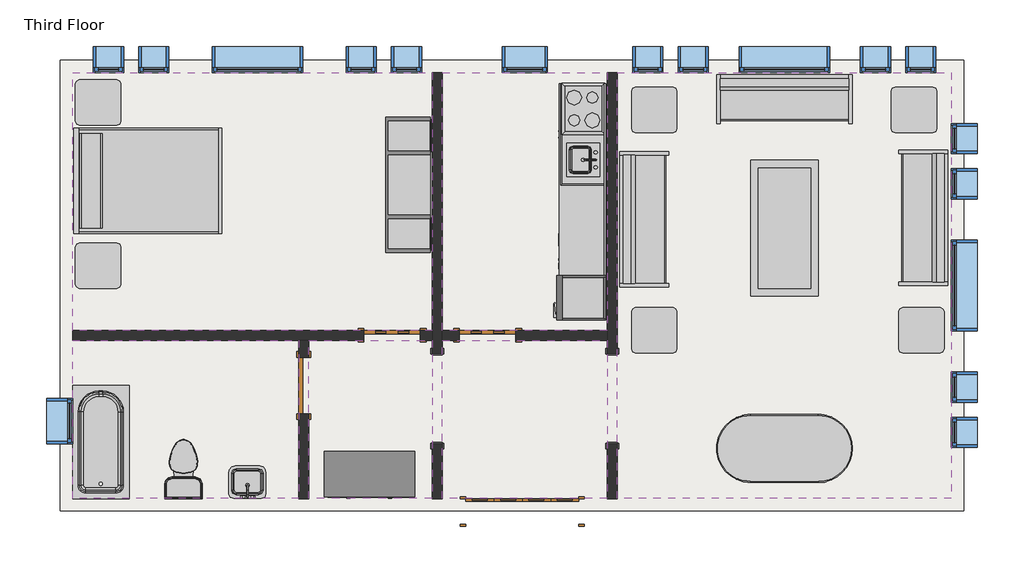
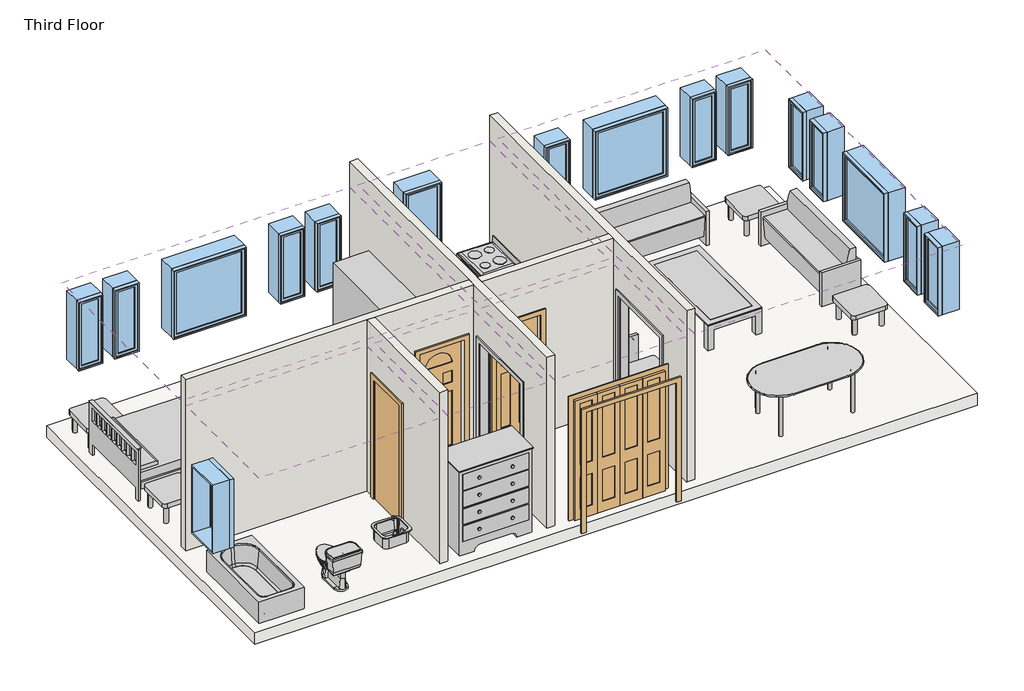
# One storey, incomplete: 17 windows, 15 furniture elements, 6 coverings, 6 proxies, 4 doors, 4 flow terminals, 4 walls, 1 slab.
"""IFC4 building model written with IfcOpenShell, lengths in millimetres."""

from ifc_helpers import new_model, si_unit, frame, origin, place, context, project, spatial, polyline, outline, extrude, faceted_brep, transform, mapped, element, save
from components import m_cook_top_4_unit2_0615_x_500mm_249f3515, m_dishwasher_610_x_610_x_875mm_54ecfc4c, m_kitchenette_medium_1372mm_e05c6bec, m_passage_opening_cased_1220_x_2134mm_87a8d9c2, m_refrigerator_600_x_660mm_a466bf94, m_bifold_4_panel_1525_x_2134mm_1ddae71f, m_single_decorative_2_0762_x_2134mm_0d0af7cb, m_single_decorative_2_0762_x_2134mm_2fe67c8e, m_single_flush_0762_x_2134mm_0d89e411, m_sink_kitchen_island_450_x_450mm_f969cf2d, m_sink_vanity_square_500_x_440mm_1e229b74, m_toilet_domestic_3d_m_toilet_domestic_3d_5cb52bd4, m_toilet_domestic_3d_m_toilet_domestic_3d_183bbd19, m_tub_rectangular_3d_m_tub_rectangular_3d_3a981ad5, m_bed_shaker_1422_x_1981mm_double_096e7f55, m_counter_top_w_sink_hole_600mm_depth_1fb56bb9, m_dresser_1220_x_1525_x_0610mm_18e1f140, m_entertainment_center_1830_x_1830_x_0610mm_f77a9b93, m_sofa_1830mm_58d08fc1, m_table_coffee_0915_x_1830_x_0457mm_134cd960, m_table_dining_oval_0915_x_1830mm_a7cfbe21, m_table_end_cb6ea12e, m_fixed_0406_x_1220mm_57fee329, m_fixed_0406_x_1220mm_85c28f40, m_fixed_0610_x_1220mm_2c28ef1d, m_fixed_1220_x_1220mm_e08ff7af

model = new_model("IFC4")

# Units and contexts
model_context = context("Model", 3, world=origin())
ifc_project = project(units=[si_unit("LENGTHUNIT", "METRE", prefix="MILLI")], contexts=[model_context])

# Site, building, storey
site = spatial("IfcSite", under=ifc_project)
building = spatial("IfcBuilding", under=site)
storey = spatial("IfcBuildingStorey", under=building, Name="Third Floor", Elevation=6096.0)

# Proxies
placement = place(None, origin())
m_cook_top_4_unit2_0615_x_500mm_shape = m_cook_top_4_unit2_0615_x_500mm_249f3515(model_context)
element("IfcBuildingElementProxy", 1, Name="M_Cook Top-4 Unit2 : 0615 x 500mm", ObjectType="M_Cook Top-4 Unit2 : 0615 x 500mm", at=placement, inside=storey, context=model_context, shape_type="MappedRepresentation", body=[
    mapped(m_cook_top_4_unit2_0615_x_500mm_shape, transform((-8054.9916203, 1914.054661, 6096.0), x_axis=(0.0, -1.0, 0.0), y_axis=(1.0, 0.0, 0.0), z_axis=(0.0, 0.0, 1.0))),
])
m_dishwasher_610_x_610_x_875mm_shape = m_dishwasher_610_x_610_x_875mm_54ecfc4c(model_context)
element("IfcBuildingElementProxy", 2, Name="M_Dishwasher : 610 x 610 x 875mm", ObjectType="M_Dishwasher : 610 x 610 x 875mm", at=placement, inside=storey, context=model_context, shape_type="MappedRepresentation", body=[
    mapped(m_dishwasher_610_x_610_x_875mm_shape, transform((-8321.6411851, 353.5721295, 6096.0), x_axis=(0.0, -1.0, 0.0), y_axis=(1.0, 0.0, 0.0), z_axis=(0.0, 0.0, 1.0))),
])
m_kitchenette_medium_1372mm_shape = m_kitchenette_medium_1372mm_e05c6bec(model_context)
element("IfcBuildingElementProxy", 3, Name="M_Kitchenette - Medium : 1372mm", ObjectType="M_Kitchenette - Medium : 1372mm", at=placement, inside=storey, context=model_context, shape_type="MappedRepresentation", body=[
    mapped(m_kitchenette_medium_1372mm_shape, transform((-7749.9916203, 1589.7923659, 6096.0), x_axis=(0.0, -1.0, 0.0), y_axis=(1.0, 0.0, 0.0), z_axis=(0.0, 0.0, 1.0))),
])
m_passage_opening_cased_1220_x_2134mm_shape = m_passage_opening_cased_1220_x_2134mm_87a8d9c2(model_context)
element("IfcBuildingElementProxy", 4, Name="M_Passage Opening-Cased : 1220 x 2134mm", ObjectType="M_Passage Opening-Cased : 1220 x 2134mm", at=placement, inside=storey, context=model_context, shape_type="MappedRepresentation", body=[
    mapped(m_passage_opening_cased_1220_x_2134mm_shape, transform((-7665.3416203, -1982.6925047, 6096.0), x_axis=(0.0, 1.0, 0.0), y_axis=(-1.0, 0.0, 0.0), z_axis=(0.0, 0.0, 1.0))),
])
element("IfcBuildingElementProxy", 5, Name="M_Passage Opening-Cased : 1220 x 2134mm", ObjectType="M_Passage Opening-Cased : 1220 x 2134mm", at=placement, inside=storey, context=model_context, shape_type="MappedRepresentation", body=[
    mapped(m_passage_opening_cased_1220_x_2134mm_shape, transform((-10019.0916203, -1999.0698181, 6096.0), x_axis=(0.0, -1.0, 0.0), y_axis=(1.0, 0.0, 0.0), z_axis=(0.0, 0.0, 1.0))),
])
m_refrigerator_600_x_660mm_shape = m_refrigerator_600_x_660mm_a466bf94(model_context)
element("IfcBuildingElementProxy", 6, Name="M_Refrigerator : 600 x 660mm", ObjectType="M_Refrigerator : 600 x 660mm", at=placement, inside=storey, context=model_context, shape_type="MappedRepresentation", body=[
    mapped(m_refrigerator_600_x_660mm_shape, transform((-8046.2067105, -687.7464817, 6096.0), x_axis=(0.0, -1.0, 0.0), y_axis=(1.0, 0.0, 0.0), z_axis=(0.0, 0.0, 1.0))),
])

# Coverings
element("IfcCovering", 7, ObjectType="Plain", at=placement, inside=storey, context=model_context, shape_type="SweptSolid", body=[
    extrude(outline(polyline([(-14935.3416203, 2406.1188386), (-10086.8416203, 2406.1188386), (-10086.8416203, -1070.3811614), (-14935.3416203, -1070.3811614), (-14935.3416203, 2406.1188386)])), frame((0.0, 0.0, 8686.0), z_axis=(0.0, 0.0, 1.0), x_axis=(1.0, 0.0, 0.0)), (0.0, 0.0, 1.0), 57.0),
])
element("IfcCovering", 8, ObjectType="Plain", at=placement, inside=storey, context=model_context, shape_type="SweptSolid", body=[
    extrude(outline(polyline([(-9951.3416203, -1070.3811614), (-9951.3416203, 2406.1188386), (-7733.0916203, 2406.1188386), (-7733.0916203, -1070.3811614), (-9951.3416203, -1070.3811614)])), frame((0.0, 0.0, 8686.0), z_axis=(0.0, 0.0, 1.0), x_axis=(1.0, 0.0, 0.0)), (0.0, 0.0, 1.0), 57.0),
])
element("IfcCovering", 9, ObjectType="Plain", at=placement, inside=storey, context=model_context, shape_type="SweptSolid", body=[
    extrude(outline(polyline([(-7597.5916203, -3339.8811614), (-7597.5916203, 2406.1188386), (-3093.3416203, 2406.1188386), (-3093.3416203, -3339.8811614), (-7597.5916203, -3339.8811614)])), frame((0.0, 0.0, 8686.0), z_axis=(0.0, 0.0, 1.0), x_axis=(1.0, 0.0, 0.0)), (0.0, 0.0, 1.0), 57.0),
])
element("IfcCovering", 10, ObjectType="Plain", at=placement, inside=storey, context=model_context, shape_type="SweptSolid", body=[
    extrude(outline(polyline([(-7733.0916203, -3339.8811614), (-9951.3416203, -3339.8811614), (-9951.3416203, -1205.8811614), (-7733.0916203, -1205.8811614), (-7733.0916203, -3339.8811614)])), frame((0.0, 0.0, 8686.0), z_axis=(0.0, 0.0, 1.0), x_axis=(1.0, 0.0, 0.0)), (0.0, 0.0, 1.0), 57.0),
])
element("IfcCovering", 11, ObjectType="Plain", at=placement, inside=storey, context=model_context, shape_type="SweptSolid", body=[
    extrude(outline(polyline([(-11887.3416203, -1205.8811614), (-11887.3416203, -3339.8811614), (-14935.3416203, -3339.8811614), (-14935.3416203, -1205.8811614), (-11887.3416203, -1205.8811614)])), frame((0.0, 0.0, 8686.0), z_axis=(0.0, 0.0, 1.0), x_axis=(1.0, 0.0, 0.0)), (0.0, 0.0, 1.0), 57.0),
])
element("IfcCovering", 12, ObjectType="Plain", at=placement, inside=storey, context=model_context, shape_type="SweptSolid", body=[
    extrude(outline(polyline([(-10086.8416203, -3339.8811614), (-11751.8416203, -3339.8811614), (-11751.8416203, -1205.8811614), (-10086.8416203, -1205.8811614), (-10086.8416203, -3339.8811614)])), frame((0.0, 0.0, 8686.0), z_axis=(0.0, 0.0, 1.0), x_axis=(1.0, 0.0, 0.0)), (0.0, 0.0, 1.0), 57.0),
])

# Doors
m_bifold_4_panel_1525_x_2134mm_shape = m_bifold_4_panel_1525_x_2134mm_1ddae71f(model_context)
element("IfcDoor", 13, ObjectType="M_Bifold-4 Panel : 1525 x 2134mm", at=placement, inside=storey, context=model_context, shape_type="MappedRepresentation", body=[
    mapped(m_bifold_4_panel_1525_x_2134mm_shape, transform((-8876.0916203, -3514.8811614, 6096.0), x_axis=(1.0, 0.0, 0.0), y_axis=(0.0, 1.0, 0.0), z_axis=(0.0, 0.0, 1.0))),
])
m_single_decorative_2_0762_x_2134mm_shape = m_single_decorative_2_0762_x_2134mm_0d0af7cb(model_context)
element("IfcDoor", 14, ObjectType="M_Single-Decorative 2 : 0762 x 2134mm", at=placement, inside=storey, context=model_context, shape_type="MappedRepresentation", body=[
    mapped(m_single_decorative_2_0762_x_2134mm_shape, transform((-9342.3416203, -1138.1311614, 6096.0), x_axis=(-1.0, 0.0, 0.0), y_axis=(0.0, -1.0, 0.0), z_axis=(0.0, 0.0, 1.0))),
])
m_single_decorative_2_0762_x_2134mm_2_shape = m_single_decorative_2_0762_x_2134mm_2fe67c8e(model_context)
element("IfcDoor", 15, ObjectType="M_Single-Decorative 2 : 0762 x 2134mm", at=placement, inside=storey, context=model_context, shape_type="MappedRepresentation", body=[
    mapped(m_single_decorative_2_0762_x_2134mm_2_shape, transform((-10629.0916203, -1138.1311614, 6096.0), x_axis=(1.0, 0.0, 0.0), y_axis=(0.0, 1.0, 0.0), z_axis=(0.0, 0.0, 1.0))),
])
m_single_flush_0762_x_2134mm_shape = m_single_flush_0762_x_2134mm_0d89e411(model_context)
element("IfcDoor", 16, ObjectType="M_Single-Flush : 0762 x 2134mm", at=placement, inside=storey, context=model_context, shape_type="MappedRepresentation", body=[
    mapped(m_single_flush_0762_x_2134mm_shape, transform((-11819.5916203, -1815.8811614, 6096.0), x_axis=(0.0, 1.0, 0.0), y_axis=(-1.0, 0.0, 0.0), z_axis=(0.0, 0.0, 1.0))),
])

# Flow terminals
m_sink_kitchen_island_450_x_450mm_shape = m_sink_kitchen_island_450_x_450mm_f969cf2d(model_context)
element("IfcFlowTerminal", 17, ObjectType="M_Sink Kitchen-Island : 450 x 450mm", at=placement, inside=storey, context=model_context, shape_type="MappedRepresentation", body=[
    mapped(m_sink_kitchen_island_450_x_450mm_shape, transform((-8057.3370214, 1243.7439015, 6096.0), x_axis=(0.0, -1.0, 0.0), y_axis=(1.0, 0.0, 0.0), z_axis=(0.0, 0.0, 1.0))),
])
m_sink_vanity_square_500_x_440mm_shape = m_sink_vanity_square_500_x_440mm_1e229b74(model_context)
element("IfcFlowTerminal", 18, ObjectType="M_Sink Vanity-Square : 500 x 440mm", at=placement, inside=storey, context=model_context, shape_type="MappedRepresentation", body=[
    mapped(m_sink_vanity_square_500_x_440mm_shape, transform((-12563.5523798, -3158.1107603, 6096.0), x_axis=(-1.0, 0.0, 0.0), y_axis=(0.0, -1.0, 0.0), z_axis=(0.0, 0.0, 1.0))),
])
m_toilet_domestic_3d_m_toilet_domestic_3d_shape = m_toilet_domestic_3d_m_toilet_domestic_3d_5cb52bd4(model_context)
m_toilet_domestic_3d_m_toilet_domestic_3d_2_shape = m_toilet_domestic_3d_m_toilet_domestic_3d_183bbd19(model_context)
element("IfcFlowTerminal", 19, ObjectType="M_Toilet-Domestic-3D : M_Toilet-Domestic-3D", at=placement, inside=storey, context=model_context, shape_type="MappedRepresentation", body=[
    mapped(m_toilet_domestic_3d_m_toilet_domestic_3d_shape, transform((-13440.7376477, -2845.185134, 6096.0), x_axis=(-1.0000000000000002, 0.0, 0.0), y_axis=(0.0, -1.0000000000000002, 0.0), z_axis=(0.0, 0.0, 1.0))),
    mapped(m_toilet_domestic_3d_m_toilet_domestic_3d_2_shape, transform((-13440.7376477, -2845.185134, 6096.0), x_axis=(-1.0000000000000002, 0.0, 0.0), y_axis=(0.0, -1.0000000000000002, 0.0), z_axis=(0.0, 0.0, 1.0))),
])
m_tub_rectangular_3d_m_tub_rectangular_3d_shape = m_tub_rectangular_3d_m_tub_rectangular_3d_3a981ad5(model_context)
element("IfcFlowTerminal", 20, ObjectType="M_Tub-Rectangular-3D : M_Tub-Rectangular-3D", at=placement, inside=storey, context=model_context, shape_type="MappedRepresentation", body=[
    mapped(m_tub_rectangular_3d_m_tub_rectangular_3d_shape, transform((-15110.3416203, -2229.2781927, 6096.0), x_axis=(0.0, 1.0, 0.0), y_axis=(-1.0, 0.0, 0.0), z_axis=(0.0, 0.0, 1.0))),
])

# Furniture
m_bed_shaker_1422_x_1981mm_double_shape = m_bed_shaker_1422_x_1981mm_double_096e7f55(model_context)
element("IfcFurniture", 21, ObjectType="M_Bed-Shaker : 1422 x 1981mm - Double", at=placement, inside=storey, context=model_context, shape_type="MappedRepresentation", body=[
    mapped(m_bed_shaker_1422_x_1981mm_double_shape, transform((-14905.3416203, 963.9688386, 6096.0), x_axis=(0.0, 1.0000000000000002, 0.0), y_axis=(-1.0000000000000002, 0.0, 0.0), z_axis=(0.0, 0.0, 1.0))),
])
m_counter_top_w_sink_hole_600mm_depth_shape = m_counter_top_w_sink_hole_600mm_depth_1fb56bb9(model_context)
element("IfcFurniture", 22, ObjectType="M_Counter Top w Sink Hole : 600mm Depth", at=placement, inside=storey, context=model_context, shape_type="MappedRepresentation", body=[
    mapped(m_counter_top_w_sink_hole_600mm_depth_shape, transform((-7749.9916203, 1056.5923659, 6096.0), x_axis=(0.0, -1.0, 0.0), y_axis=(1.0, 0.0, 0.0), z_axis=(0.0, 0.0, 1.0))),
])
m_dresser_1220_x_1525_x_0610mm_shape = m_dresser_1220_x_1525_x_0610mm_18e1f140(model_context)
element("IfcFurniture", 23, ObjectType="M_Dresser : 1220 x 1525 x 0610mm", at=placement, inside=storey, context=model_context, shape_type="MappedRepresentation", body=[
    mapped(m_dresser_1220_x_1525_x_0610mm_shape, transform((-10667.6483605, -2647.7182073, 6096.0), x_axis=(1.0, 0.0, 0.0), y_axis=(0.0, 1.0, 0.0), z_axis=(0.0, 0.0, 1.0))),
])
m_entertainment_center_1830_x_1830_x_0610mm_shape = m_entertainment_center_1830_x_1830_x_0610mm_f77a9b93(model_context)
element("IfcFurniture", 24, ObjectType="M_Entertainment center : 1830 x 1830 x 0610mm", at=placement, inside=storey, context=model_context, shape_type="MappedRepresentation", body=[
    mapped(m_entertainment_center_1830_x_1830_x_0610mm_shape, transform((-10818.2416203, 891.1188386, 6096.0), x_axis=(0.0, 1.0, 0.0), y_axis=(-1.0, 0.0, 0.0), z_axis=(0.0, 0.0, 1.0))),
])
m_sofa_1830mm_shape = m_sofa_1830mm_58d08fc1(model_context)
element("IfcFurniture", 25, ObjectType="M_Sofa : 1830mm", at=placement, inside=storey, context=model_context, shape_type="MappedRepresentation", body=[
    mapped(m_sofa_1830mm_shape, transform((-5413.7121121, 1899.9647403, 6096.0), x_axis=(1.0, 0.0, 0.0), y_axis=(0.0, 1.0, 0.0), z_axis=(0.0, 0.0, 1.0))),
])
element("IfcFurniture", 26, ObjectType="M_Sofa : 1830mm", at=placement, inside=storey, context=model_context, shape_type="MappedRepresentation", body=[
    mapped(m_sofa_1830mm_shape, transform((-3617.1736471, 517.2688343, 6096.0), x_axis=(0.0, -1.0, 0.0), y_axis=(1.0, 0.0, 0.0), z_axis=(0.0, 0.0, 1.0))),
])
element("IfcFurniture", 27, ObjectType="M_Sofa : 1830mm", at=placement, inside=storey, context=model_context, shape_type="MappedRepresentation", body=[
    mapped(m_sofa_1830mm_shape, transform((-7088.437522, 355.7483468, 6096.0), x_axis=(0.0, 1.0, 0.0), y_axis=(-1.0, 0.0, 0.0), z_axis=(0.0, 0.0, 1.0))),
])
m_table_coffee_0915_x_1830_x_0457mm_shape = m_table_coffee_0915_x_1830_x_0457mm_134cd960(model_context)
element("IfcFurniture", 28, ObjectType="M_Table-Coffee : 0915 x 1830 x 0457mm", at=placement, inside=storey, context=model_context, shape_type="MappedRepresentation", body=[
    mapped(m_table_coffee_0915_x_1830_x_0457mm_shape, transform((-5248.1305425, 287.8530719, 6096.0), x_axis=(0.0, 1.0, 0.0), y_axis=(-1.0, 0.0, 0.0), z_axis=(0.0, 0.0, 1.0))),
])
m_table_dining_oval_0915_x_1830mm_shape = m_table_dining_oval_0915_x_1830mm_a7cfbe21(model_context)
element("IfcFurniture", 29, ObjectType="M_Table-Dining Oval : 0915 x 1830mm", at=placement, inside=storey, context=model_context, shape_type="MappedRepresentation", body=[
    mapped(m_table_dining_oval_0915_x_1830mm_shape, transform((-4941.5219482, -2305.2828007, 6096.0), x_axis=(1.0, 0.0, 0.0), y_axis=(0.0, 1.0, 0.0), z_axis=(0.0, 0.0, 1.0))),
])
m_table_end_shape = m_table_end_cb6ea12e(model_context)
element("IfcFurniture", 30, ObjectType="M_Table-End : 0610 x 0160mm altered height", at=placement, inside=storey, context=model_context, shape_type="MappedRepresentation", body=[
    mapped(m_table_end_shape, transform((-7407.0752506, 1748.7188386, 6096.0), x_axis=(1.0, 0.0, 0.0), y_axis=(0.0, 1.0, 0.0), z_axis=(0.0, 0.0, 1.0))),
])
element("IfcFurniture", 31, ObjectType="M_Table-End : 0610 x 0160mm altered height", at=placement, inside=storey, context=model_context, shape_type="MappedRepresentation", body=[
    mapped(m_table_end_shape, transform((-3907.0752506, 1748.7188386, 6096.0), x_axis=(1.0, 0.0, 0.0), y_axis=(0.0, 1.0, 0.0), z_axis=(0.0, 0.0, 1.0))),
])
element("IfcFurniture", 32, ObjectType="M_Table-End : 0610 x 0160mm altered height", at=placement, inside=storey, context=model_context, shape_type="MappedRepresentation", body=[
    mapped(m_table_end_shape, transform((-3807.0752506, -1222.7811614, 6096.0), x_axis=(1.0, 0.0, 0.0), y_axis=(0.0, 1.0, 0.0), z_axis=(0.0, 0.0, 1.0))),
])
element("IfcFurniture", 33, ObjectType="M_Table-End : 0610 x 0160mm altered height", at=placement, inside=storey, context=model_context, shape_type="MappedRepresentation", body=[
    mapped(m_table_end_shape, transform((-7407.0752506, -1222.7811614, 6096.0), x_axis=(1.0, 0.0, 0.0), y_axis=(0.0, 1.0, 0.0), z_axis=(0.0, 0.0, 1.0))),
])
element("IfcFurniture", 34, ObjectType="M_Table-End : 0610 x 0160mm altered height", at=placement, inside=storey, context=model_context, shape_type="MappedRepresentation", body=[
    mapped(m_table_end_shape, transform((-14899.0752506, -351.2811614, 6096.0), x_axis=(1.0, 0.0, 0.0), y_axis=(0.0, 1.0, 0.0), z_axis=(0.0, 0.0, 1.0))),
])
element("IfcFurniture", 35, ObjectType="M_Table-End : 0610 x 0160mm altered height", at=placement, inside=storey, context=model_context, shape_type="MappedRepresentation", body=[
    mapped(m_table_end_shape, transform((-14899.0752506, 1848.7188386, 6096.0), x_axis=(1.0, 0.0, 0.0), y_axis=(0.0, 1.0, 0.0), z_axis=(0.0, 0.0, 1.0))),
])

# Slab
element("IfcSlab", 36, ObjectType="160mm Concrete With 50mm Metal Deck", at=placement, inside=storey, context=model_context, shape_type="SweptSolid", body=[
    extrude(outline(polyline([(-2928.3416203, 2571.1188386), (-2928.3416203, -3504.8811614), (-15100.3416203, -3504.8811614), (-15100.3416203, 2571.1188386), (-2928.3416203, 2571.1188386)])), frame((0.0, 0.0, 5886.0), z_axis=(0.0, 0.0, 1.0), x_axis=(1.0, 0.0, 0.0)), (0.0, 0.0, 1.0), 210.0),
])

# Walls
element("IfcWall", 37, ObjectType="Interior - 135mm Partition (2-hr)", at=placement, inside=storey, context=model_context, shape_type="Brep", body=[
    faceted_brep([(-7733.0916203, 2406.1188386, 6096.0), (-7733.0916203, -1070.3811614, 6096.0), (-7733.0916203, -1205.8811614, 6096.0), (-7733.0916203, -1380.8811614, 6096.0), (-7733.0916203, -1380.8811614, 8230.0), (-7733.0916203, -2600.8811614, 8230.0), (-7733.0916203, -2600.8811614, 6096.0), (-7733.0916203, -3339.8811614, 6096.0), (-7733.0916203, -3339.8811614, 9144.0), (-7733.0916203, -1205.8811614, 9144.0), (-7733.0916203, -1070.3811614, 9144.0), (-7733.0916203, 2406.1188386, 9144.0), (-7597.5916203, -1380.8811614, 8230.0), (-7597.5916203, -1380.8811614, 6096.0), (-7597.5916203, 2406.1188386, 6096.0), (-7597.5916203, 2406.1188386, 9144.0), (-7597.5916203, -3339.8811614, 9144.0), (-7597.5916203, -3339.8811614, 6096.0), (-7597.5916203, -2600.8811614, 6096.0), (-7597.5916203, -2600.8811614, 8230.0)], [[[0, 1, 2, 3, 4, 5, 6, 7, 8, 9, 10, 11]], [[12, 13, 14, 15, 16, 17, 18, 19]], [[18, 17, 7, 6]], [[14, 13, 3, 2, 1, 0]], [[11, 10, 9, 8, 16, 15]], [[6, 5, 19, 18]], [[4, 3, 13, 12]], [[5, 4, 12, 19]], [[0, 11, 15, 14]], [[8, 7, 17, 16]]]),
])
element("IfcWall", 38, ObjectType="Interior - 135mm Partition (2-hr)", at=placement, inside=storey, context=model_context, shape_type="Brep", body=[
    faceted_brep([(-10086.8416203, -2600.8811614, 8230.0), (-10086.8416203, -2600.8811614, 6096.0), (-10086.8416203, -3339.8811614, 6096.0), (-10086.8416203, -3339.8811614, 9144.0), (-10086.8416203, -1205.8811614, 9144.0), (-10086.8416203, -1070.3811614, 9144.0), (-10086.8416203, 2406.1188386, 9144.0), (-10086.8416203, 2406.1188386, 6096.0), (-10086.8416203, -1070.3811614, 6096.0), (-10086.8416203, -1205.8811614, 6096.0), (-10086.8416203, -1380.8811614, 6096.0), (-10086.8416203, -1380.8811614, 8230.0), (-9951.3416203, -3339.8811614, 6096.0), (-9951.3416203, -2600.8811614, 6096.0), (-9951.3416203, -2600.8811614, 8230.0), (-9951.3416203, -1380.8811614, 8230.0), (-9951.3416203, -1380.8811614, 6096.0), (-9951.3416203, -1205.8811614, 6096.0), (-9951.3416203, -1070.3811614, 6096.0), (-9951.3416203, 2406.1188386, 6096.0), (-9951.3416203, 2406.1188386, 9144.0), (-9951.3416203, -1070.3811614, 9144.0), (-9951.3416203, -1205.8811614, 9144.0), (-9951.3416203, -3339.8811614, 9144.0)], [[[0, 1, 2, 3, 4, 5, 6, 7, 8, 9, 10, 11]], [[12, 13, 14, 15, 16, 17, 18, 19, 20, 21, 22, 23]], [[2, 1, 13, 12]], [[10, 9, 8, 7, 19, 18, 17, 16]], [[6, 5, 4, 3, 23, 22, 21, 20]], [[16, 15, 11, 10]], [[14, 13, 1, 0]], [[15, 14, 0, 11]], [[7, 6, 20, 19]], [[3, 2, 12, 23]]]),
])
element("IfcWall", 39, ObjectType="Interior - 135mm Partition (2-hr)", at=placement, inside=storey, context=model_context, shape_type="Brep", body=[
    faceted_brep([(-7733.0916203, -1205.8811614, 6096.0), (-7733.0916203, -1205.8811614, 9144.0), (-9951.3416203, -1205.8811614, 9144.0), (-9951.3416203, -1205.8811614, 6096.0), (-9723.3416203, -1205.8811614, 6096.0), (-9723.3416203, -1205.8811614, 8230.0), (-8961.3416203, -1205.8811614, 8230.0), (-8961.3416203, -1205.8811614, 6096.0), (-7733.0916203, -1070.3811614, 9144.0), (-7733.0916203, -1070.3811614, 6096.0), (-8961.3416203, -1070.3811614, 6096.0), (-8961.3416203, -1070.3811614, 8230.0), (-9723.3416203, -1070.3811614, 8230.0), (-9723.3416203, -1070.3811614, 6096.0), (-9951.3416203, -1070.3811614, 6096.0), (-9951.3416203, -1070.3811614, 9144.0)], [[[0, 1, 2, 3, 4, 5, 6, 7]], [[8, 9, 10, 11, 12, 13, 14, 15]], [[9, 0, 7, 10]], [[13, 4, 3, 14]], [[1, 8, 15, 2]], [[1, 0, 9, 8]], [[3, 2, 15, 14]], [[5, 4, 13, 12]], [[6, 5, 12, 11]], [[7, 6, 11, 10]]]),
    faceted_brep([(-10248.0916203, -1205.8811614, 8230.0), (-10248.0916203, -1205.8811614, 6096.0), (-10086.8416203, -1205.8811614, 6096.0), (-10086.8416203, -1205.8811614, 9144.0), (-11751.8416203, -1205.8811614, 9144.0), (-11887.3416203, -1205.8811614, 9144.0), (-14935.3416203, -1205.8811614, 9144.0), (-14935.3416203, -1205.8811614, 6096.0), (-11887.3416203, -1205.8811614, 6096.0), (-11751.8416203, -1205.8811614, 6096.0), (-11010.0916203, -1205.8811614, 6096.0), (-11010.0916203, -1205.8811614, 8230.0), (-10248.0916203, -1070.3811614, 6096.0), (-10248.0916203, -1070.3811614, 8230.0), (-11010.0916203, -1070.3811614, 8230.0), (-11010.0916203, -1070.3811614, 6096.0), (-14935.3416203, -1070.3811614, 6096.0), (-14935.3416203, -1070.3811614, 9144.0), (-10086.8416203, -1070.3811614, 9144.0), (-10086.8416203, -1070.3811614, 6096.0)], [[[0, 1, 2, 3, 4, 5, 6, 7, 8, 9, 10, 11]], [[12, 13, 14, 15, 16, 17, 18, 19]], [[1, 12, 19, 2]], [[15, 10, 9, 8, 7, 16]], [[17, 6, 5, 4, 3, 18]], [[3, 2, 19, 18]], [[13, 12, 1, 0]], [[14, 13, 0, 11]], [[15, 14, 11, 10]], [[7, 6, 17, 16]]]),
])
element("IfcWall", 40, ObjectType="Interior - 135mm Partition (2-hr)", at=placement, inside=storey, context=model_context, shape_type="SweptSolid", body=[
    extrude(outline(polyline([(-1205.8811614, 6096.0), (-1434.8811614, 6096.0), (-1434.8811614, 8230.0), (-2196.8811614, 8230.0), (-2196.8811614, 6096.0), (-3339.8811614, 6096.0), (-3339.8811614, 9144.0), (-1205.8811614, 9144.0), (-1205.8811614, 6096.0)])), frame((-11887.3416203, 0.0, 0.0), z_axis=(1.0, 0.0, 0.0), x_axis=(0.0, 1.0, 0.0)), (0.0, 0.0, 1.0), 135.5),
])

# Windows
m_fixed_0406_x_1220mm_shape = m_fixed_0406_x_1220mm_57fee329(model_context)
element("IfcWindow", 41, ObjectType="M_Fixed : 0406 x 1220mm", at=placement, inside=storey, context=model_context, shape_type="MappedRepresentation", body=[
    mapped(m_fixed_0406_x_1220mm_shape, transform((-14450.3416203, 2594.1188386, 6096.0), x_axis=(-1.0, 0.0, 0.0), y_axis=(0.0, -1.0, 0.0), z_axis=(0.0, 0.0, 1.0))),
])
element("IfcWindow", 42, ObjectType="M_Fixed : 0406 x 1220mm", at=placement, inside=storey, context=model_context, shape_type="MappedRepresentation", body=[
    mapped(m_fixed_0406_x_1220mm_shape, transform((-13840.3416203, 2594.1188386, 6096.0), x_axis=(-1.0, 0.0, 0.0), y_axis=(0.0, -1.0, 0.0), z_axis=(0.0, 0.0, 1.0))),
])
element("IfcWindow", 43, ObjectType="M_Fixed : 0406 x 1220mm", at=placement, inside=storey, context=model_context, shape_type="MappedRepresentation", body=[
    mapped(m_fixed_0406_x_1220mm_shape, transform((-7183.3416203, 2594.1188386, 6096.0), x_axis=(-1.0, 0.0, 0.0), y_axis=(0.0, -1.0, 0.0), z_axis=(0.0, 0.0, 1.0))),
])
element("IfcWindow", 44, ObjectType="M_Fixed : 0406 x 1220mm", at=placement, inside=storey, context=model_context, shape_type="MappedRepresentation", body=[
    mapped(m_fixed_0406_x_1220mm_shape, transform((-6573.3416203, 2594.1188386, 6096.0), x_axis=(-1.0, 0.0, 0.0), y_axis=(0.0, -1.0, 0.0), z_axis=(0.0, 0.0, 1.0))),
])
element("IfcWindow", 45, ObjectType="M_Fixed : 0406 x 1220mm", at=placement, inside=storey, context=model_context, shape_type="MappedRepresentation", body=[
    mapped(m_fixed_0406_x_1220mm_shape, transform((-2905.3416203, 1514.1188386, 6096.0), x_axis=(0.0, 1.0, 0.0), y_axis=(-1.0, 0.0, 0.0), z_axis=(0.0, 0.0, 1.0))),
])
element("IfcWindow", 46, ObjectType="M_Fixed : 0406 x 1220mm", at=placement, inside=storey, context=model_context, shape_type="MappedRepresentation", body=[
    mapped(m_fixed_0406_x_1220mm_shape, transform((-2905.3416203, 904.1188386, 6096.0), x_axis=(0.0, 1.0, 0.0), y_axis=(-1.0, 0.0, 0.0), z_axis=(0.0, 0.0, 1.0))),
])
m_fixed_0406_x_1220mm_2_shape = m_fixed_0406_x_1220mm_85c28f40(model_context)
element("IfcWindow", 47, ObjectType="M_Fixed : 0406 x 1220mm", at=placement, inside=storey, context=model_context, shape_type="MappedRepresentation", body=[
    mapped(m_fixed_0406_x_1220mm_2_shape, transform((-10436.3416203, 2594.1188386, 6096.0), x_axis=(1.0, 0.0, 0.0), y_axis=(0.0, 1.0, 0.0), z_axis=(0.0, 0.0, 1.0))),
])
element("IfcWindow", 48, ObjectType="M_Fixed : 0406 x 1220mm", at=placement, inside=storey, context=model_context, shape_type="MappedRepresentation", body=[
    mapped(m_fixed_0406_x_1220mm_2_shape, transform((-11046.3416203, 2594.1188386, 6096.0), x_axis=(1.0, 0.0, 0.0), y_axis=(0.0, 1.0, 0.0), z_axis=(0.0, 0.0, 1.0))),
])
element("IfcWindow", 49, ObjectType="M_Fixed : 0406 x 1220mm", at=placement, inside=storey, context=model_context, shape_type="MappedRepresentation", body=[
    mapped(m_fixed_0406_x_1220mm_2_shape, transform((-3507.5916203, 2594.1188386, 6096.0), x_axis=(1.0, 0.0, 0.0), y_axis=(0.0, 1.0, 0.0), z_axis=(0.0, 0.0, 1.0))),
])
element("IfcWindow", 50, ObjectType="M_Fixed : 0406 x 1220mm", at=placement, inside=storey, context=model_context, shape_type="MappedRepresentation", body=[
    mapped(m_fixed_0406_x_1220mm_2_shape, transform((-4117.5916203, 2594.1188386, 6096.0), x_axis=(1.0, 0.0, 0.0), y_axis=(0.0, 1.0, 0.0), z_axis=(0.0, 0.0, 1.0))),
])
element("IfcWindow", 51, ObjectType="M_Fixed : 0406 x 1220mm", at=placement, inside=storey, context=model_context, shape_type="MappedRepresentation", body=[
    mapped(m_fixed_0406_x_1220mm_2_shape, transform((-2905.3416203, -2447.8811614, 6096.0), x_axis=(0.0, -1.0, 0.0), y_axis=(1.0, 0.0, 0.0), z_axis=(0.0, 0.0, 1.0))),
])
element("IfcWindow", 52, ObjectType="M_Fixed : 0406 x 1220mm", at=placement, inside=storey, context=model_context, shape_type="MappedRepresentation", body=[
    mapped(m_fixed_0406_x_1220mm_2_shape, transform((-2905.3416203, -1837.8811614, 6096.0), x_axis=(0.0, -1.0, 0.0), y_axis=(1.0, 0.0, 0.0), z_axis=(0.0, 0.0, 1.0))),
])
m_fixed_0610_x_1220mm_shape = m_fixed_0610_x_1220mm_2c28ef1d(model_context)
element("IfcWindow", 53, ObjectType="M_Fixed : 0610 x 1220mm", at=placement, inside=storey, context=model_context, shape_type="MappedRepresentation", body=[
    mapped(m_fixed_0610_x_1220mm_shape, transform((-8842.1916203, 2594.1188386, 6096.0), x_axis=(-1.0, 0.0, 0.0), y_axis=(0.0, -1.0, 0.0), z_axis=(0.0, 0.0, 1.0))),
])
element("IfcWindow", 54, ObjectType="M_Fixed : 0610 x 1220mm", at=placement, inside=storey, context=model_context, shape_type="MappedRepresentation", body=[
    mapped(m_fixed_0610_x_1220mm_shape, transform((-15123.3416203, -2294.8811614, 6096.0), x_axis=(0.0, -1.0, 0.0), y_axis=(1.0, 0.0, 0.0), z_axis=(0.0, 0.0, 1.0))),
])
m_fixed_1220_x_1220mm_shape = m_fixed_1220_x_1220mm_e08ff7af(model_context)
element("IfcWindow", 55, ObjectType="M_Fixed : 1220 x 1220mm", at=placement, inside=storey, context=model_context, shape_type="MappedRepresentation", body=[
    mapped(m_fixed_1220_x_1220mm_shape, transform((-12443.3416203, 2594.1188386, 6096.0), x_axis=(-1.0, 0.0, 0.0), y_axis=(0.0, -1.0, 0.0), z_axis=(0.0, 0.0, 1.0))),
])
element("IfcWindow", 56, ObjectType="M_Fixed : 1220 x 1220mm", at=placement, inside=storey, context=model_context, shape_type="MappedRepresentation", body=[
    mapped(m_fixed_1220_x_1220mm_shape, transform((-5345.4666203, 2594.1188386, 6096.0), x_axis=(-1.0, 0.0, 0.0), y_axis=(0.0, -1.0, 0.0), z_axis=(0.0, 0.0, 1.0))),
])
element("IfcWindow", 57, ObjectType="M_Fixed : 1220 x 1220mm", at=placement, inside=storey, context=model_context, shape_type="MappedRepresentation", body=[
    mapped(m_fixed_1220_x_1220mm_shape, transform((-2905.3416203, -466.8811614, 6096.0), x_axis=(0.0, 1.0, 0.0), y_axis=(-1.0, 0.0, 0.0), z_axis=(0.0, 0.0, 1.0))),
])

save(model, "model.ifc")
